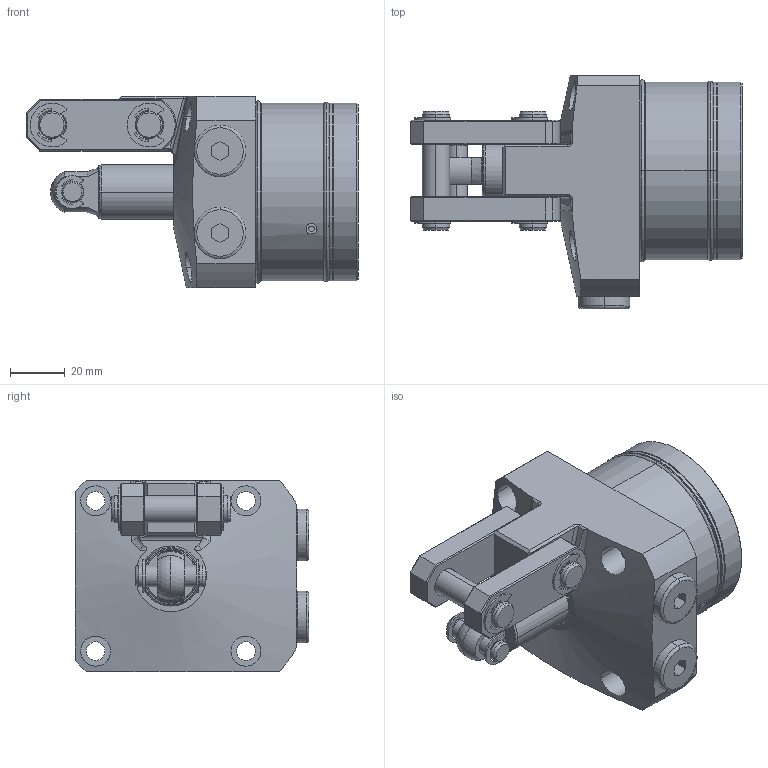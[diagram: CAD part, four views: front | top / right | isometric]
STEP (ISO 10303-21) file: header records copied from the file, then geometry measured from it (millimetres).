
FILE_DESCRIPTION(/* description */ (''),/* implementation_level */ '2;1');
FILE_NAME(/* name */ 'KTPW65-RJ.stp',/* time_stamp */ '2022-11-20T08:37:17+08:00',/* author */ (''),/* organization */ (''),/* preprocessor_version */ 'ST-DEVELOPER v16.7',/* originating_system */ 'SIEMENS PLM Software NX 12.0',/* authorisation */ '');
FILE_SCHEMA (('AP203_CONFIGURATION_CONTROLLED_3D_DESIGN_OF_MECHANICAL_PARTS_AND_ASSEMBLIES_MIM_LF { 1 0 10303 403 2 1 2}'));
Length unit declared in the file: millimetre
Products named in the file (11): KTPW65-RJ-02; KTPW65-RJ-08; KTPW65-RJ-06; KTPW65-RJ-010; KTPW65-RJ-03; KTPW65-RJ-09; KTPW65-RJ-05; KTPW65-RJ-07; KTPW65-RJ-0111; KTPW65-RJ-04; LKW0651-CRJ_step
Assembly tree (18 placements, depth 2):
  LKW0651-CRJ_step
    KTPW65-RJ-04  x2
    KTPW65-RJ-0111  x2
    KTPW65-RJ-07  x4
    KTPW65-RJ-05  x2
    KTPW65-RJ-09
    KTPW65-RJ-03
    KTPW65-RJ-010  x2
    KTPW65-RJ-06
    KTPW65-RJ-08  x2
    KTPW65-RJ-02
Bounding box: 121.5 x 85.5 x 70 mm (x, y, z)
Volume: 299992.3 mm3; surface area: 61150.2 mm2
Topology: 20 solids, 20 shells, 644 faces, 1497 edges, 928 vertices
Faces by surface type: cylinder 252, plane 194, torus 110, cone 76, bspline 10, sphere 2
Full cylindrical faces by diameter (mm): 65 x1
Entity records: 13437 total; most frequent: CARTESIAN_POINT 2899, DIRECTION 2077, ORIENTED_EDGE 1762, EDGE_CURVE 881, AXIS2_PLACEMENT_3D 866, VERTEX_POINT 542, CIRCLE 466, EDGE_LOOP 441
